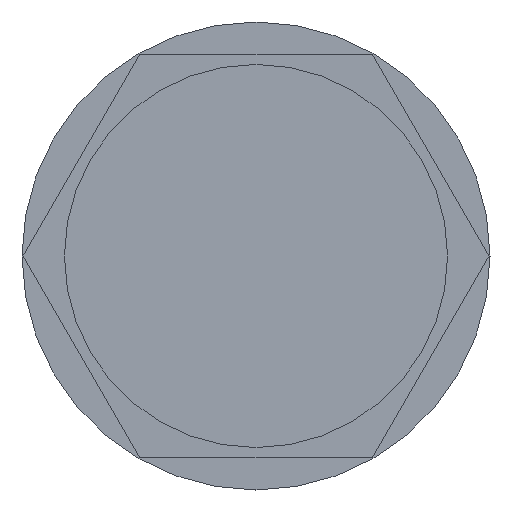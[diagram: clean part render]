
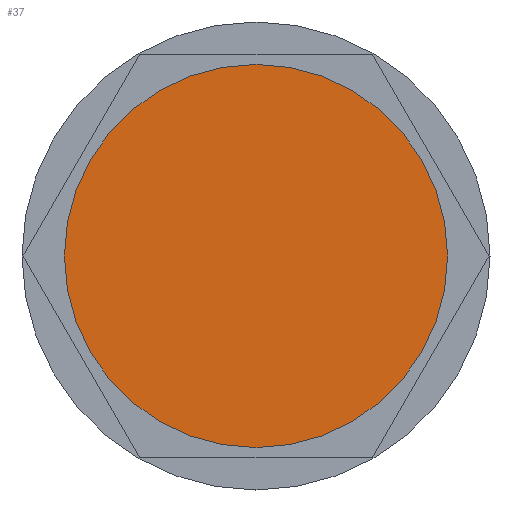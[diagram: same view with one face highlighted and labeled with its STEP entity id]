
A CAD part, left-side view. The second image highlights one B-rep face of the part: STEP entity #37.
In plain terms, the highlighted planar face has unit normal (-1, 0, 0).
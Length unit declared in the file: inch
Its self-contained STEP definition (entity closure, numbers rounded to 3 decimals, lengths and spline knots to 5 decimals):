
#31 = VERTEX_POINT ( 'NONE', #158 ) ;
#37 = ADVANCED_FACE ( 'NONE', ( #389 ), #157, .F. ) ;
#106 = EDGE_CURVE ( 'NONE', #31, #31, #369, .T. ) ;
#107 = AXIS2_PLACEMENT_3D ( 'NONE', #273, #229, #249 ) ;
#138 = AXIS2_PLACEMENT_3D ( 'NONE', #160, #189, #190 ) ;
#157 = PLANE ( 'NONE',  #107 ) ;
#158 = CARTESIAN_POINT ( 'NONE',  ( -1.426, 0., 0.2595 ) ) ;
#160 = CARTESIAN_POINT ( 'NONE',  ( -1.426, 0., 0. ) ) ;
#189 = DIRECTION ( 'NONE',  ( -1., 0., 0. ) ) ;
#190 = DIRECTION ( 'NONE',  ( 0., 0., 1. ) ) ;
#229 = DIRECTION ( 'NONE',  ( 1., 0., 0. ) ) ;
#249 = DIRECTION ( 'NONE',  ( 0., 0., -1. ) ) ;
#273 = CARTESIAN_POINT ( 'NONE',  ( -1.426, 0., 0. ) ) ;
#299 = ORIENTED_EDGE ( 'NONE', *, *, #106, .T. ) ;
#337 = EDGE_LOOP ( 'NONE', ( #299 ) ) ;
#369 = CIRCLE ( 'NONE', #138, 0.2595 ) ;
#389 = FACE_OUTER_BOUND ( 'NONE', #337, .T. ) ;
